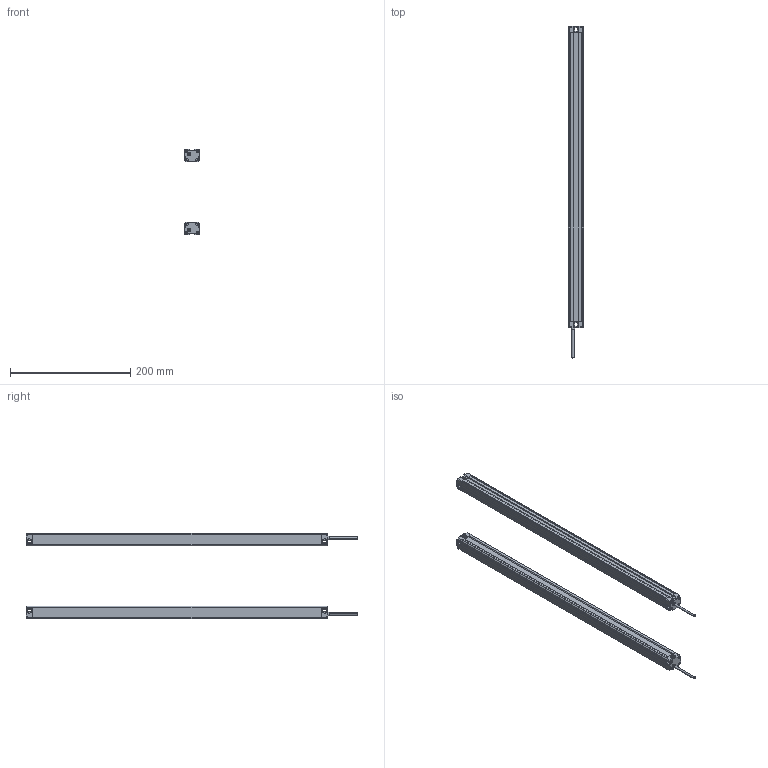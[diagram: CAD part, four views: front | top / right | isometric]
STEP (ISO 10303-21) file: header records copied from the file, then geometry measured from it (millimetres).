
FILE_DESCRIPTION (( 'STEP AP214' ), '1' );
FILE_NAME ('MTC2420.STEP', '2022-08-02T08:58:37', ( '' ), ( '' ), 'SwSTEP 2.0', 'SolidWorks 2018', '' );
FILE_SCHEMA (( 'AUTOMOTIVE_DESIGN' ));
Length unit declared in the file: millimetre
Products named in the file (5): MTC2420; 噩砃P02^MTC; P02^MTC; MTC waike^MTC; P01^MTC
Assembly tree (6 placements, depth 2):
  MTC2420
    MTC waike^MTC  x2
    P01^MTC  x2
    P02^MTC
    噩砃P02^MTC
Bounding box: 25 x 552 x 141.4 mm (x, y, z)
Volume: 170468.2 mm3; surface area: 230902.6 mm2
Topology: 8 solids, 8 shells, 480 faces, 1396 edges, 924 vertices
Faces by surface type: plane 272, cylinder 208
Entity records: 10886 total; most frequent: DIRECTION 1881, CARTESIAN_POINT 1878, ORIENTED_EDGE 1846, EDGE_CURVE 923, AXIS2_PLACEMENT_3D 637, VERTEX_POINT 610, LINE 607, VECTOR 607
